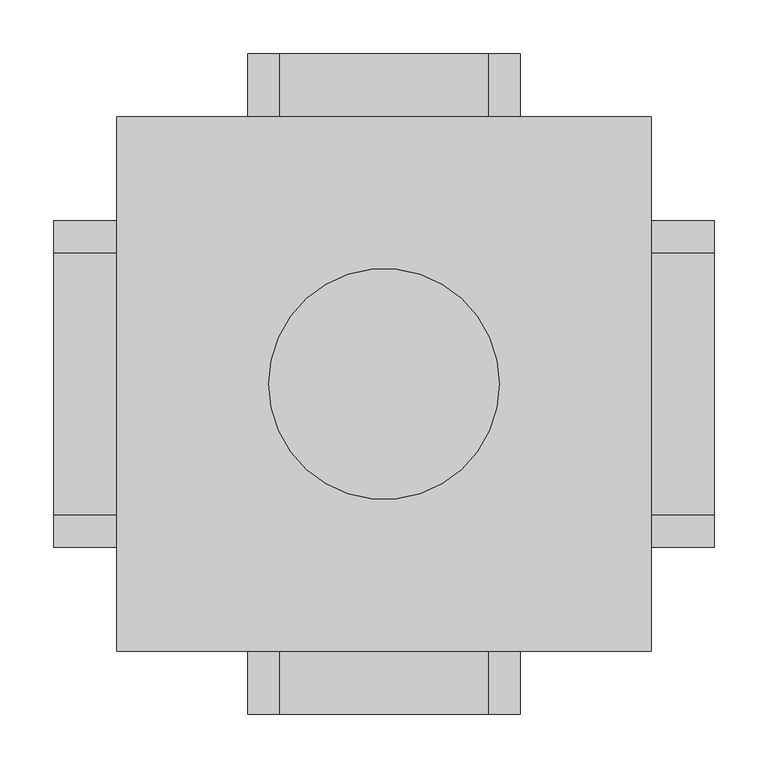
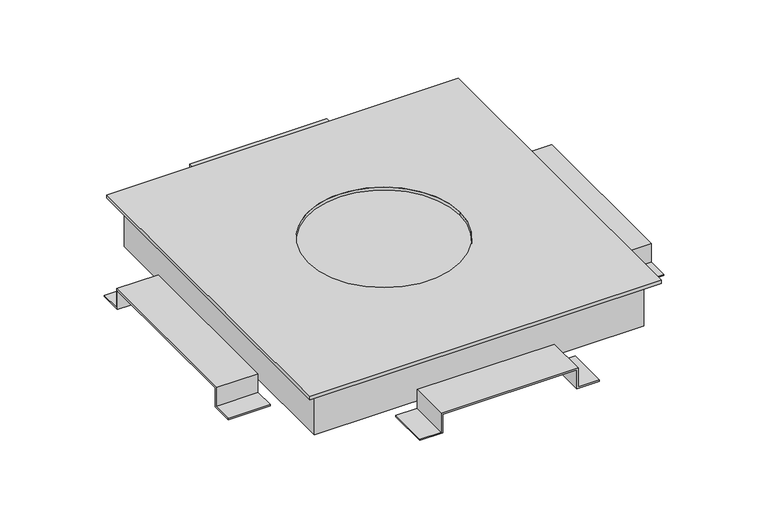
"""IFC4 building model written with IfcOpenShell, lengths in millimetres: cable carrier fitting geometry, Electrical-Installations_Hager_Universal-Junction-Box-With-Retaining-Tabs-Size-3 : Universal junction box with retaining tabs size 3."""

import ifcopenshell
import ifcopenshell.guid

model = None  # the IFC model being written
_history = None  # IfcOwnerHistory: only IFC2X3 demands one
_inside = {}  # id of a spatial element -> (the spatial element, [elements in it])
_under = {}  # id of a project, library or spatial element -> (it, [spatial elements below it])
_declared = {}  # id of a project -> (the project, [libraries it declares])
_typed = {}  # id of a type object -> (the type object, [elements of that type])
_made_of = {}  # id of a material, layer set ... -> (it, [elements and type objects made of it])


def new_model(schema):
    """Start an empty IFC model of exactly this schema.

    Asked for "IFC4X3", IfcOpenShell would pick the latest addendum, in which some entities
    have other attributes; the version numbers below select the first issue.
    IFC2X3 requires an IfcOwnerHistory on every rooted entity: one is made here for all.
    """
    global model, _history
    if schema == "IFC4X3":
        model = ifcopenshell.file(schema_version=(4, 3, 0, 0))
    else:
        model = ifcopenshell.file(schema=schema)
    _inside.clear()
    _under.clear()
    _declared.clear()
    _typed.clear()
    _made_of.clear()
    _history = None
    if model.schema == "IFC2X3":
        org = make("IfcOrganization", Name="unknown")
        user = make(
            "IfcPersonAndOrganization",
            ThePerson=make("IfcPerson", FamilyName="unknown"),
            TheOrganization=org,
        )
        app = make(
            "IfcApplication",
            ApplicationDeveloper=org,
            Version="unknown",
            ApplicationFullName="unknown",
            ApplicationIdentifier="unknown",
        )
        _history = make(
            "IfcOwnerHistory",
            OwningUser=user,
            OwningApplication=app,
            ChangeAction="ADDED",
            CreationDate=0,
        )
    return model


def make(cls, **values):
    """One entity of the class cls with the attributes given. An attribute that is None is left unset."""
    return model.create_entity(
        cls, **{name: value for name, value in values.items() if value is not None}
    )


def rooted(cls, **values):
    """An entity with a GlobalId (a new one), such as an element, a storey or a relation."""
    return make(cls, GlobalId=ifcopenshell.guid.new(), OwnerHistory=_history, **values)


def si_unit(unit_type, name, prefix=None):
    """IfcSIUnit, for example si_unit("LENGTHUNIT", "METRE", prefix="MILLI")."""
    return make("IfcSIUnit", UnitType=unit_type, Prefix=prefix, Name=name)


def assignment(units):
    """IfcUnitAssignment: the units of a project."""
    return None if units is None else make("IfcUnitAssignment", Units=units)


def point(xyz):
    """IfcCartesianPoint."""
    return None if xyz is None else make("IfcCartesianPoint", Coordinates=xyz)


def direction(xyz):
    """IfcDirection."""
    return None if xyz is None else make("IfcDirection", DirectionRatios=xyz)


def frame(location, z_axis=None, x_axis=None):
    """IfcAxis2Placement3D, a coordinate frame: its origin and axes. An axis left out is left unset."""
    return make(
        "IfcAxis2Placement3D",
        Location=point(location),
        Axis=direction(z_axis),
        RefDirection=direction(x_axis),
    )


def origin():
    """The frame at (0, 0, 0) with its axes left unset."""
    return frame((0.0, 0.0, 0.0))


def place(relative_to, where):
    """IfcLocalPlacement: puts the frame where relative to a parent placement (None: the world)."""
    return make(
        "IfcLocalPlacement", PlacementRelTo=relative_to, RelativePlacement=where
    )


def context(
    kind, dimensions, precision=None, world=None, true_north=None, identifier=None
):
    """IfcGeometricRepresentationContext, for example the 3D "Model" context."""
    return make(
        "IfcGeometricRepresentationContext",
        ContextIdentifier=identifier,
        ContextType=kind,
        CoordinateSpaceDimension=dimensions,
        Precision=precision,
        WorldCoordinateSystem=world,
        TrueNorth=true_north,
    )


def project(units=None, contexts=None):
    """IfcProject with its units and contexts."""
    return rooted(
        "IfcProject",
        Name="project",
        RepresentationContexts=contexts,
        UnitsInContext=assignment(units),
    )


def spatial(cls, under=None, at=None, **own):
    """A site, building, storey or space (cls), placed at a placement, below another one or the project."""
    s = rooted(cls, ObjectPlacement=at, **own)
    if under is not None:
        _under.setdefault(under.id(), (under, []))[1].append(s)
    return s


def polyline(points):
    """IfcPolyline through the points."""
    return make("IfcPolyline", Points=[point(p) for p in points])


def circle_curve(where, radius):
    """IfcCircle in the frame where."""
    return make("IfcCircle", Position=where, Radius=radius)


def outline(outer, holes=None, kind="AREA"):
    """IfcArbitraryClosedProfileDef: a profile drawn as a closed curve; with holes, ...WithVoids."""
    if holes is None:
        return make("IfcArbitraryClosedProfileDef", ProfileType=kind, OuterCurve=outer)
    return make(
        "IfcArbitraryProfileDefWithVoids",
        ProfileType=kind,
        OuterCurve=outer,
        InnerCurves=holes,
    )


def extrude(swept, where, along, depth):
    """IfcExtrudedAreaSolid: the profile swept, set in the frame where, extruded along a direction by depth."""
    return make(
        "IfcExtrudedAreaSolid",
        SweptArea=swept,
        Position=where,
        ExtrudedDirection=direction(along),
        Depth=depth,
    )


def faces_of(points, faces, orient=None, outer=None):
    """IfcFace entities. A face is a list of loops; a loop is a list of indices into points, from 0.

    orient and outer hold one flag for each loop. By default every Orientation is true, the
    first loop of a face is its IfcFaceOuterBound and the others are IfcFaceBound.
    """
    made = []
    for i, loops in enumerate(faces):
        bounds = []
        for j, loop in enumerate(loops):
            is_outer = j == 0 if outer is None else outer[i][j]
            bounds.append(
                make(
                    "IfcFaceOuterBound" if is_outer else "IfcFaceBound",
                    Bound=make("IfcPolyLoop", Polygon=[points[k] for k in loop]),
                    Orientation=True if orient is None else orient[i][j],
                )
            )
        made.append(make("IfcFace", Bounds=bounds))
    return made


def faceted_brep(points, faces, orient=None, outer=None, voids=None):
    """IfcFacetedBrep: a solid bounded by flat faces; with voids (closed shells), ...WithVoids."""
    shared = [point(p) for p in points]
    hull = make("IfcClosedShell", CfsFaces=faces_of(shared, faces, orient, outer))
    if voids is None:
        return make("IfcFacetedBrep", Outer=hull)
    return make(
        "IfcFacetedBrepWithVoids",
        Outer=hull,
        Voids=[
            make(cls, CfsFaces=faces_of(shared, fs, o, b)) for cls, fs, o, b in voids
        ],
    )


def shape(context_of_items, identifier, shape_type, items):
    """IfcShapeRepresentation: the items that make up one representation, for example the "Body"."""
    return make(
        "IfcShapeRepresentation",
        ContextOfItems=context_of_items,
        RepresentationIdentifier=identifier,
        RepresentationType=shape_type,
        Items=items,
    )


def source(mapping_origin, context_of_items, identifier, shape_type, items):
    """IfcRepresentationMap: a shape defined once, which mapped items show again and again."""
    return make(
        "IfcRepresentationMap",
        MappingOrigin=mapping_origin,
        MappedRepresentation=shape(context_of_items, identifier, shape_type, items),
    )


def transform(
    local_origin,
    x_axis=None,
    y_axis=None,
    z_axis=None,
    scale=None,
    scale2=None,
    scale3=None,
    uniform=True,
):
    """IfcCartesianTransformationOperator3D, or its non-uniform kind. x_axis, y_axis, z_axis: its Axis1, 2, 3."""
    if uniform:
        return make(
            "IfcCartesianTransformationOperator3D",
            Axis1=direction(x_axis),
            Axis2=direction(y_axis),
            LocalOrigin=point(local_origin),
            Scale=scale,
            Axis3=direction(z_axis),
        )
    return make(
        "IfcCartesianTransformationOperator3DnonUniform",
        Axis1=direction(x_axis),
        Axis2=direction(y_axis),
        LocalOrigin=point(local_origin),
        Scale=scale,
        Axis3=direction(z_axis),
        Scale2=scale2,
        Scale3=scale3,
    )


def mapped(mapping_source, mapping_target):
    """IfcMappedItem: shows the shape of a source again, moved by a transform."""
    return make(
        "IfcMappedItem", MappingSource=mapping_source, MappingTarget=mapping_target
    )


def made_of(thing, what):
    """Note that an element or type object is made of a material, layer set ...; save() writes the relation."""
    if what is not None:
        _made_of.setdefault(what.id(), (what, []))[1].append(thing)
    return thing


def element(
    cls,
    number,
    at=None,
    inside=None,
    cuts=None,
    type_object=None,
    material=None,
    context=None,
    identifier="Body",
    shape_type=None,
    held_by="IfcProductDefinitionShape",
    body=None,
    shapes=None,
    **own,
):
    """One element of the class cls, such as IfcWall. Its Tag is "e" and its number.

    at: its placement. inside: the storey or other place that contains it. cuts: it is an
    opening in that element (IfcRelVoidsElement). A single representation is given by context,
    identifier, shape_type and body (its items); several are given by shapes. held_by: the class
    of the entity that holds the representations. save() writes the other relations.
    """
    e = rooted(cls, Tag="e%d" % number, ObjectPlacement=at, **own)
    if body is not None:
        shapes = [shape(context, identifier, shape_type, body)]
    if shapes is not None:
        e.Representation = make(held_by, Representations=shapes)
    if inside is not None:
        _inside.setdefault(inside.id(), (inside, []))[1].append(e)
    if cuts is not None:
        rooted(
            "IfcRelVoidsElement", RelatingBuildingElement=cuts, RelatedOpeningElement=e
        )
    if type_object is not None:
        _typed.setdefault(type_object.id(), (type_object, []))[1].append(e)
    return made_of(e, material)


def aggregate(whole, parts):
    """IfcRelAggregates: a whole, such as a stair, and the parts it consists of."""
    return rooted("IfcRelAggregates", RelatingObject=whole, RelatedObjects=parts)


def save(model, path):
    """Write the relations noted so far, then the file.

    IfcRelAggregates (storeys below a building ...), IfcRelContainedInSpatialStructure (elements
    in a storey), IfcRelDefinesByType, IfcRelAssociatesMaterial and IfcRelDeclares: one each for
    every whole, place, type object, material and project.
    """
    for whole, parts in _under.values():
        aggregate(whole, parts)
    for where, things in _inside.values():
        rooted(
            "IfcRelContainedInSpatialStructure",
            RelatedElements=things,
            RelatingStructure=where,
        )
    for kind, things in _typed.values():
        rooted("IfcRelDefinesByType", RelatedObjects=things, RelatingType=kind)
    for what, things in _made_of.values():
        rooted("IfcRelAssociatesMaterial", RelatedObjects=things, RelatingMaterial=what)
    for by, libraries in _declared.values():
        rooted("IfcRelDeclares", RelatingContext=by, RelatedDefinitions=libraries)
    model.write(path)


def plane_surface(at):
    """IfcPlane: the flat surface through the origin of the frame at, square to its z axis."""
    return make("IfcPlane", Position=at)


def revolved_surface(curve, axis_point, axis_direction):
    """IfcSurfaceOfRevolution: the curve turned about the line through axis_point along axis_direction."""
    return make(
        "IfcSurfaceOfRevolution",
        SweptCurve=make("IfcArbitraryOpenProfileDef", ProfileType="CURVE", Curve=curve),
        AxisPosition=make("IfcAxis1Placement", Location=point(axis_point), Axis=direction(axis_direction)),
    )


def advanced_brep(points, edges, surfaces, faces):
    """IfcAdvancedBrep: a solid bounded by faces that lie on surfaces and meet in shared edges.

    An edge is (start, end): straight between two places in points (the first is 0);
    or (start, end, curve); or (start, end, curve, False) where it runs against its curve.
    A face is (place in surfaces, loops), or (place, loops, False) where it looks against
    its surface's normal. A loop lists edges by number (the first is 1), with a minus sign
    where the edge is run from its end to its start. The first loop is the outer one.
    """
    corners = [point(p) for p in points]
    vertices = [make("IfcVertexPoint", VertexGeometry=c) for c in corners]
    made = []
    for start, end, *more in edges:
        made.append(
            make(
                "IfcEdgeCurve",
                EdgeStart=vertices[start],
                EdgeEnd=vertices[end],
                EdgeGeometry=more[0] if more else make("IfcPolyline", Points=[corners[start], corners[end]]),
                SameSense=more[1] if len(more) > 1 else True,
            )
        )
    hull = []
    for where, loops, *sense in faces:
        bounds = []
        for j, loop in enumerate(loops):
            ring = [make("IfcOrientedEdge", EdgeElement=made[abs(k) - 1], Orientation=k > 0) for k in loop]
            bounds.append(
                make(
                    "IfcFaceOuterBound" if j == 0 else "IfcFaceBound",
                    Bound=make("IfcEdgeLoop", EdgeList=ring),
                    Orientation=True,
                )
            )
        hull.append(make("IfcAdvancedFace", Bounds=bounds, FaceSurface=surfaces[where], SameSense=sense[0] if sense else True))
    return make("IfcAdvancedBrep", Outer=make("IfcClosedShell", CfsFaces=hull))


def cable_carrier_fitting_4ca78d10(model_context):
    return source(origin(), model_context, "Body", "SolidModel", [
        extrude(outline(polyline([(-14.0, -127.0), (-14.0, -95.0), (14.0, -95.0), (14.0, 95.0), (-14.0, 95.0), (-14.0, 127.0), (-12.0, 127.0), (-12.0, 97.0), (16.0, 97.0), (16.0, -97.0), (-12.0, -97.0), (-12.0, -127.0), (-14.0, -127.0)])), frame((0.0, 249.0, 0.0), z_axis=(0.0, 1.0, 0.0), x_axis=(0.0, 0.0, 1.0)), (0.0, 0.0, 1.0), 59.0),
        extrude(outline(polyline([(-152.0, -14.0), (-152.0, -12.0), (-122.0, -12.0), (-122.0, 16.0), (122.0, 16.0), (122.0, -12.0), (152.0, -12.0), (152.0, -14.0), (120.0, -14.0), (120.0, 14.0), (-120.0, 14.0), (-120.0, -14.0), (-152.0, -14.0)])), frame((-308.0, 0.0, 0.0), z_axis=(1.0, 0.0, 0.0), x_axis=(0.0, 1.0, 0.0)), (0.0, 0.0, 1.0), 59.0),
        extrude(outline(polyline([(-14.0, -127.0), (-14.0, -95.0), (14.0, -95.0), (14.0, 95.0), (-14.0, 95.0), (-14.0, 127.0), (-12.0, 127.0), (-12.0, 97.0), (16.0, 97.0), (16.0, -97.0), (-12.0, -97.0), (-12.0, -127.0), (-14.0, -127.0)])), frame((0.0, -308.0, 0.0), z_axis=(0.0, 1.0, 0.0), x_axis=(0.0, 0.0, 1.0)), (0.0, 0.0, 1.0), 59.0),
        extrude(outline(polyline([(-152.0, -14.0), (-152.0, -12.0), (-122.0, -12.0), (-122.0, 16.0), (122.0, 16.0), (122.0, -12.0), (152.0, -12.0), (152.0, -14.0), (120.0, -14.0), (120.0, 14.0), (-120.0, 14.0), (-120.0, -14.0), (-152.0, -14.0)])), frame((249.0, 0.0, 0.0), z_axis=(1.0, 0.0, 0.0), x_axis=(0.0, 1.0, 0.0)), (0.0, 0.0, 1.0), 59.0),
        advanced_brep(
        [(-249.0, -249.0, 59.0), (249.0, -249.0, 59.0), (249.0, 249.0, 59.0), (-249.0, 249.0, 59.0), (-107.5, 0.0, 59.0), (107.5, 0.0, 59.0), (-249.0, -249.0, 54.0), (-249.0, 249.0, 54.0), (249.0, 249.0, 54.0), (249.0, -249.0, 54.0), (227.0, 227.0, 54.0), (-227.0, 227.0, 54.0), (-227.0, -227.0, 54.0), (227.0, -227.0, 54.0), (-107.5, 0.0, 54.7820613), (107.5, 0.0, 54.7820613), (227.0, 227.0, 54.7820613), (227.0, -227.0, 54.7820613), (-227.0, -227.0, 54.7820613), (-227.0, 227.0, 54.7820613)],
        [
            (0, 1),
            (1, 2),
            (2, 3),
            (3, 0),
            (4, 5, circle_curve(frame((0.0, 0.0, 59.0), z_axis=(0.0, 0.0, -1.0), x_axis=(1.0, 0.0, 0.0)), 107.5)),
            (5, 4, circle_curve(frame((0.0, 0.0, 59.0), z_axis=(0.0, 0.0, -1.0), x_axis=(1.0, 0.0, 0.0)), 107.5)),
            (6, 7),
            (7, 8),
            (8, 9),
            (9, 6),
            (10, 11),
            (11, 12),
            (12, 13),
            (13, 10),
            (0, 6),
            (9, 1),
            (8, 2),
            (7, 3),
            (4, 14),
            (14, 15, circle_curve(frame((0.0, 0.0, 54.7820613), z_axis=(0.0, 0.0, -1.0), x_axis=(1.0, 0.0, 0.0)), 107.5)),
            (15, 5),
            (15, 14, circle_curve(frame((0.0, 0.0, 54.7820613), z_axis=(0.0, 0.0, -1.0), x_axis=(1.0, 0.0, 0.0)), 107.5)),
            (16, 17),
            (17, 18),
            (18, 19),
            (19, 16),
            (19, 11),
            (10, 16),
            (18, 12),
            (17, 13),
        ],
        [
            plane_surface(frame((-249.0, -249.0, 59.0), z_axis=(0.0, 0.0, 1.0), x_axis=(1.0, 0.0, 0.0))),
            plane_surface(frame((-249.0, -249.0, 54.0), z_axis=(0.0, 0.0, -1.0), x_axis=(-1.0, 0.0, 0.0))),
            plane_surface(frame((-249.0, -249.0, 59.0), z_axis=(0.0, -1.0, 0.0), x_axis=(0.0, 0.0, -1.0))),
            plane_surface(frame((249.0, -249.0, 59.0), z_axis=(1.0, 0.0, 0.0), x_axis=(0.0, 0.0, -1.0))),
            plane_surface(frame((249.0, 249.0, 59.0), z_axis=(0.0, 1.0, 0.0), x_axis=(0.0, 0.0, -1.0))),
            plane_surface(frame((-249.0, 249.0, 59.0), z_axis=(-1.0, 0.0, 0.0), x_axis=(0.0, 0.0, -1.0))),
            revolved_surface(polyline([(107.5, 0.0, 54.7820613), (107.5, 0.0, 59.0)]), (0.0, 0.0, 0.0), (0.0, 0.0, -1.0)),
            plane_surface(frame((-227.0, 227.0, 54.7820613), z_axis=(0.0, 0.0, -1.0), x_axis=(-1.0, 0.0, 0.0))),
            plane_surface(frame((227.0, 227.0, 54.7820613), z_axis=(0.0, -1.0, 0.0), x_axis=(0.0, 0.0, -1.0))),
            plane_surface(frame((-227.0, 227.0, 54.7820613), z_axis=(1.0, 0.0, 0.0), x_axis=(0.0, 0.0, -1.0))),
            plane_surface(frame((-227.0, -227.0, 54.7820613), z_axis=(0.0, 1.0, 0.0), x_axis=(0.0, 0.0, -1.0))),
            plane_surface(frame((227.0, -227.0, 54.7820613), z_axis=(-1.0, 0.0, 0.0), x_axis=(0.0, 0.0, -1.0))),
        ],
        [
            (0, [[1, 2, 3, 4], [5, 6]]),
            (1, [[7, 8, 9, 10], [11, 12, 13, 14]]),
            (2, [[-1, 15, -10, 16]]),
            (3, [[-2, -16, -9, 17]]),
            (4, [[-3, -17, -8, 18]]),
            (5, [[-4, -18, -7, -15]]),
            (6, [[-5, 19, 20, 21]]),
            (6, [[-6, -21, 22, -19]]),
            (7, [[23, 24, 25, 26], [-20, -22]]),
            (8, [[-26, 27, -11, 28]]),
            (9, [[-25, 29, -12, -27]]),
            (10, [[-24, 30, -13, -29]]),
            (11, [[-23, -28, -14, -30]]),
        ],
    ),
        faceted_brep([(-233.0, 233.0, 54.0), (-233.0, -233.0, 54.0), (233.0, -233.0, 54.0), (233.0, 233.0, 54.0), (-227.0, 227.0, 54.0), (227.0, 227.0, 54.0), (227.0, -227.0, 54.0), (-227.0, -227.0, 54.0), (-233.0, 233.0, -14.0), (233.0, 233.0, -14.0), (233.0, -233.0, -14.0), (-233.0, -233.0, -14.0), (227.0, 227.0, -6.1362798), (-227.0, 227.0, -6.1362798), (-227.0, -227.0, -6.1362798), (227.0, -227.0, -6.1362798)], [[[0, 1, 2, 3], [4, 5, 6, 7]], [[8, 9, 10, 11]], [[1, 0, 8, 11]], [[2, 1, 11, 10]], [[3, 2, 10, 9]], [[0, 3, 9, 8]], [[12, 13, 14, 15]], [[13, 12, 5, 4]], [[14, 13, 4, 7]], [[15, 14, 7, 6]], [[12, 15, 6, 5]]]),
    ])


if __name__ == "__main__":
    model = new_model("IFC4")
    model_context = context("Model", 3, world=origin())
    ifc_project = project(units=[si_unit("LENGTHUNIT", "METRE", prefix="MILLI")], contexts=[model_context])
    site = spatial("IfcSite", under=ifc_project)
    building = spatial("IfcBuilding", under=site)
    placement = place(None, origin())
    cable_carrier_fitting_shape = cable_carrier_fitting_4ca78d10(model_context)
    element("IfcCableCarrierFitting", 1, ObjectType="Electrical-Installations_Hager_Universal-Junction-Box-With-Retaining-Tabs-Size-3 : Universal junction box with retaining tabs size 3", at=placement, inside=building, context=model_context, shape_type="MappedRepresentation", body=[
        mapped(cable_carrier_fitting_shape, transform((0.0, 0.0, 0.0), x_axis=(1.0, 0.0, 0.0), y_axis=(0.0, 1.0, 0.0), z_axis=(0.0, 0.0, 1.0))),
    ])
    save(model, "model.ifc")
